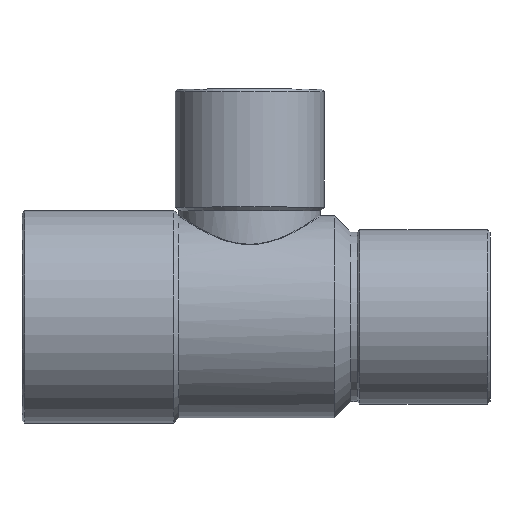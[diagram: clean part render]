
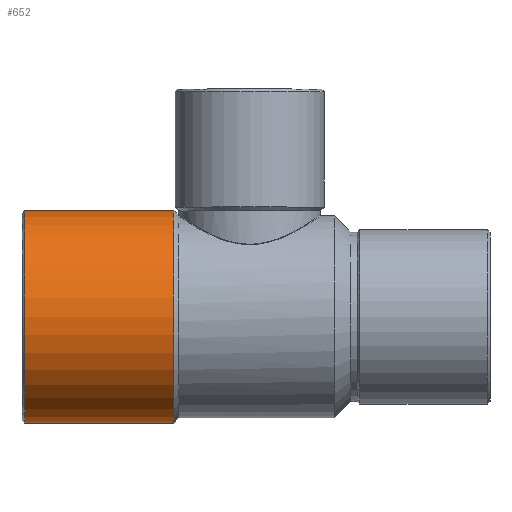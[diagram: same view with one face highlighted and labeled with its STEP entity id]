
A CAD part, top view. The second image highlights one B-rep face of the part: STEP entity #652.
In plain terms, the highlighted cylindrical face has radius 8.4 mm (diameter 16.8 mm), a partial arc.
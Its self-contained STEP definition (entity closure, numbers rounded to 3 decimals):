
#182=CARTESIAN_POINT('',(-6.0,8.4,0.0));
#183=VERTEX_POINT('',#182);
#192=CARTESIAN_POINT('',(-6.,-8.4,0.));
#193=VERTEX_POINT('',#192);
#194=CARTESIAN_POINT('',(-6.,0.0,0.0));
#195=DIRECTION('',(1.0,0.0,0.0));
#196=DIRECTION('',(0.0,1.0,0.0));
#197=AXIS2_PLACEMENT_3D('',#194,#195,#196);
#198=CIRCLE('',#197,8.4);
#199=EDGE_CURVE('',#183,#193,#198,.T.);
#621=CARTESIAN_POINT('',(-12.,0.0,0.0));
#622=DIRECTION('',(1.0,0.0,0.0));
#623=DIRECTION('',(0.0,1.0,0.0));
#624=AXIS2_PLACEMENT_3D('',#621,#622,#623);
#625=CYLINDRICAL_SURFACE('',#624,8.4);
#626=CARTESIAN_POINT('',(-17.8,8.4,0.));
#627=VERTEX_POINT('',#626);
#628=CARTESIAN_POINT('',(-17.8,8.4,0.));
#629=DIRECTION('',(1.0,0.0,0.0));
#630=VECTOR('',#629,11.8);
#631=LINE('',#628,#630);
#632=EDGE_CURVE('',#627,#183,#631,.T.);
#633=ORIENTED_EDGE('',*,*,#632,.F.);
#634=CARTESIAN_POINT('',(-17.8,-8.4,0.));
#635=VERTEX_POINT('',#634);
#636=CARTESIAN_POINT('',(-17.8,0.0,0.0));
#637=DIRECTION('',(-1.0,0.0,0.0));
#638=DIRECTION('',(0.0,-1.0,0.0));
#639=AXIS2_PLACEMENT_3D('',#636,#637,#638);
#640=CIRCLE('',#639,8.4);
#641=EDGE_CURVE('',#635,#627,#640,.T.);
#642=ORIENTED_EDGE('',*,*,#641,.F.);
#643=CARTESIAN_POINT('',(-6.,-8.4,0.));
#644=DIRECTION('',(-1.0,0.0,0.0));
#645=VECTOR('',#644,11.8);
#646=LINE('',#643,#645);
#647=EDGE_CURVE('',#193,#635,#646,.T.);
#648=ORIENTED_EDGE('',*,*,#647,.F.);
#649=ORIENTED_EDGE('',*,*,#199,.F.);
#650=EDGE_LOOP('',(#633,#642,#648,#649));
#651=FACE_OUTER_BOUND('',#650,.T.);
#652=ADVANCED_FACE('',(#651),#625,.T.);
